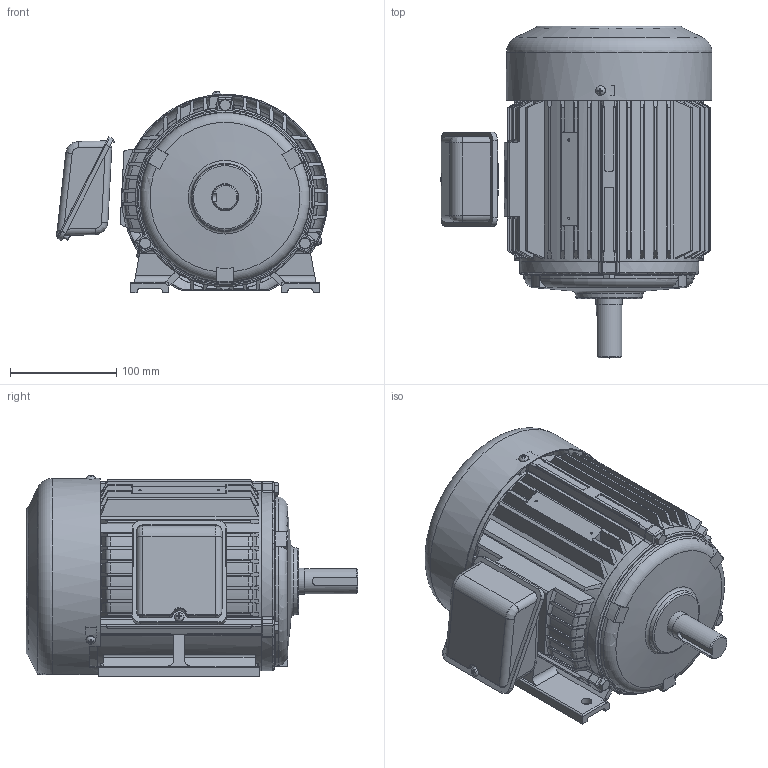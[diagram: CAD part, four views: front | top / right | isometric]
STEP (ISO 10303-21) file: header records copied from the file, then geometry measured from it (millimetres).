
FILE_DESCRIPTION(/* description */ ('Unknown'),/* implementation_level */ '2;1');
FILE_NAME(/* name */ '1-SMA-39252_외형도(160DIA)',/* time_stamp */ '2026-07-24T08:26:23+09:00',/* author */ ('Unknown'),/* organization */ ('Unknown'),/* preprocessor_version */ 'ST-DEVELOPER v16',/* originating_system */ 'DEX',/* authorisation */ $);
FILE_SCHEMA (('AUTOMOTIVE_DESIGN {1 0 10303 214 3 1 1}'));
Length unit declared in the file: millimetre
Products named in the file (13): 1-SMA-39252_¿ÜÇüµµ(160DIxÆÖÄ³(; 2-SMA-38821_FRAME(160DIA); 3-SMA-30853_擅粽塭鰍(160D暗; 4-SMA-30854_菴粽塭鰍(160D; 5-SMA-39059_SHAFT(160DIA); 6-SMA-31241_FAN(120DIA~140DIA); 7-SMA-30643_FAN COVER(160DIA); 8-SMA-33040_T-BOX(鼻)(160DIA); 9-SMA-33041_T-BOX(ﾇﾏ)(160DIA)｣6; 菅斬 褊濠 M5x0.8x; 幫陝獐お M6x1x; 6205ZZ; 6204ZZ
Assembly tree (20 placements, depth 2):
  1-SMA-39252_¿ÜÇüµµ(160DIxÆÖÄ³(
    2-SMA-38821_FRAME(160DIA)
    3-SMA-30853_擅粽塭鰍(160D暗
    4-SMA-30854_菴粽塭鰍(160D
    5-SMA-39059_SHAFT(160DIA)
    6-SMA-31241_FAN(120DIA~140DIA)
    7-SMA-30643_FAN COVER(160DIA)
    8-SMA-33040_T-BOX(鼻)(160DIA)
    9-SMA-33041_T-BOX(ﾇﾏ)(160DIA)｣6
    菅斬 褊濠 M5x0.8x  x4
    幫陝獐お M6x1x  x6
    6205ZZ
    6204ZZ
Bounding box: 256.42 x 313 x 189.94 mm (x, y, z)
Volume: 1374234.3 mm3; surface area: 695199.2 mm2
Topology: 42 solids, 42 shells, 1713 faces, 4436 edges, 2810 vertices
Faces by surface type: plane 597, cylinder 558, cone 323, torus 172, sphere 36, bspline 27
Full cylindrical faces by diameter (mm): 2.2 x2, 4.134 x7, 4.917 x12, 5 x8, 6 x13, 8 x6, 10 x4, 14.1 x1, 14.2 x1, 19.8 x1, 20 x2, 20.6 x1, 22 x1, 24 x1, 24.8 x1, 25 x2, 25.1 x1, 25.6 x1, 27 x1, 27.714 x2, 28.114 x2, 29 x2, 32.714 x2, 33 x1, 33.114 x2, 38.886 x2, 39.286 x2, 43.886 x2, 44.286 x2, 47 x2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
Entity records: 66082 total; most frequent: CARTESIAN_POINT 25058, DIRECTION 7583, ORIENTED_EDGE 7560, EDGE_CURVE 3780, AXIS2_PLACEMENT_3D 3043, VERTEX_POINT 2508, FACE_BOUND 1858, EDGE_LOOP 1834
